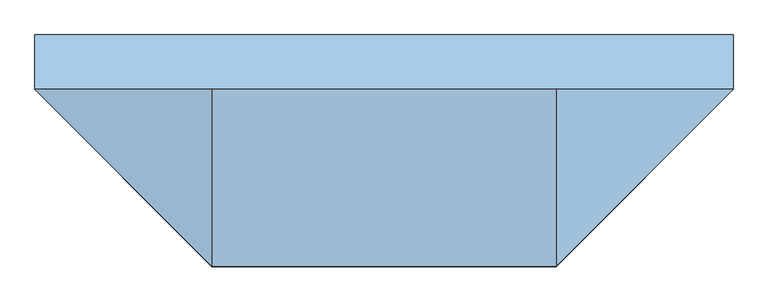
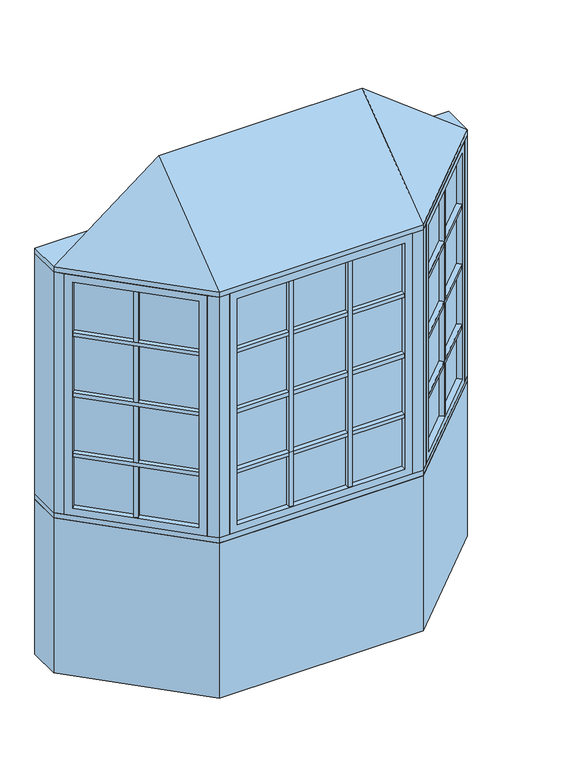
"""IFC4 building model written with IfcOpenShell, lengths in millimetres: window geometry, Pollard_Windows_Tudor Casement Bows and Bays : AML-BAY 45 AFR0612-08-600_GC."""

from ifc_helpers import new_model, si_unit, frame, origin, origin_with_axes, place, context, project, spatial, polyline, outline, extrude, faceted_brep, source, transform, mapped, element, save


def window_85a7261f(model_context):
    return source(origin(), model_context, "Body", "SolidModel", [
        extrude(outline(polyline([(539.5114193, -506.9608753), (523.9550701, -491.4045261), (901.616171, -113.7434252), (917.1725202, -129.2997743), (539.5114193, -506.9608753)])), frame((0.0, 0.0, 1390.998), z_axis=(0.0, 0.0, 1.0), x_axis=(1.0, 0.0, 0.0)), (0.0, 0.0, 1.0), 18.0),
        extrude(outline(polyline([(520.3629677, -487.8124236), (504.8066185, -472.2560744), (882.4677194, -94.5949735), (898.0240686, -110.1513227), (520.3629677, -487.8124236)])), frame((0.0, 0.0, 1390.998), z_axis=(0.0, 0.0, 1.0), x_axis=(1.0, 0.0, 0.0)), (0.0, 0.0, 1.0), 18.0),
        extrude(outline(polyline([(539.5114193, -506.9608753), (523.9550701, -491.4045261), (901.616171, -113.7434252), (917.1725202, -129.2997743), (539.5114193, -506.9608753)])), frame((0.0, 0.0, 1090.998), z_axis=(0.0, 0.0, 1.0), x_axis=(1.0, 0.0, 0.0)), (0.0, 0.0, 1.0), 18.0),
        extrude(outline(polyline([(520.3629677, -487.8124236), (504.8066185, -472.2560744), (882.4677194, -94.5949735), (898.0240686, -110.1513227), (520.3629677, -487.8124236)])), frame((0.0, 0.0, 1090.998), z_axis=(0.0, 0.0, 1.0), x_axis=(1.0, 0.0, 0.0)), (0.0, 0.0, 1.0), 18.0),
        extrude(outline(polyline([(539.5114193, -506.9608753), (523.9550701, -491.4045261), (901.616171, -113.7434252), (917.1725202, -129.2997743), (539.5114193, -506.9608753)])), frame((0.0, 0.0, 1390.998), z_axis=(0.0, 0.0, 1.0), x_axis=(1.0, 0.0, 0.0)), (0.0, 0.0, 1.0), 18.0),
        extrude(outline(polyline([(520.3629677, -487.8124236), (504.8066185, -472.2560744), (882.4677194, -94.5949735), (898.0240686, -110.1513227), (520.3629677, -487.8124236)])), frame((0.0, 0.0, 1390.998), z_axis=(0.0, 0.0, 1.0), x_axis=(1.0, 0.0, 0.0)), (0.0, 0.0, 1.0), 18.0),
        extrude(outline(polyline([(539.5114193, -506.9608753), (523.9550701, -491.4045261), (901.616171, -113.7434252), (917.1725202, -129.2997743), (539.5114193, -506.9608753)])), frame((0.0, 0.0, 1390.998), z_axis=(0.0, 0.0, 1.0), x_axis=(1.0, 0.0, 0.0)), (0.0, 0.0, 1.0), 18.0),
        extrude(outline(polyline([(520.3629677, -487.8124236), (504.8066185, -472.2560744), (882.4677194, -94.5949735), (898.0240686, -110.1513227), (520.3629677, -487.8124236)])), frame((0.0, 0.0, 1390.998), z_axis=(0.0, 0.0, 1.0), x_axis=(1.0, 0.0, 0.0)), (0.0, 0.0, 1.0), 18.0),
        extrude(outline(polyline([(539.5114193, -506.9608753), (523.9550701, -491.4045261), (901.616171, -113.7434252), (917.1725202, -129.2997743), (539.5114193, -506.9608753)])), frame((0.0, 0.0, 1690.998), z_axis=(0.0, 0.0, 1.0), x_axis=(1.0, 0.0, 0.0)), (0.0, 0.0, 1.0), 18.0),
        extrude(outline(polyline([(520.3629677, -487.8124236), (504.8066185, -472.2560744), (882.4677194, -94.5949735), (898.0240686, -110.1513227), (520.3629677, -487.8124236)])), frame((0.0, 0.0, 1690.998), z_axis=(0.0, 0.0, 1.0), x_axis=(1.0, 0.0, 0.0)), (0.0, 0.0, 1.0), 18.0),
        extrude(outline(polyline([(719.1495816, -296.2100146), (734.7059308, -311.7663638), (721.9780087, -324.4942858), (706.4216595, -308.9379366), (719.1495816, -296.2100146)])), frame((0.0, 0.0, 835.8628), z_axis=(0.0, 0.0, 1.0), x_axis=(1.0, 0.0, 0.0)), (0.0, 0.0, 1.0), 1128.2704),
        extrude(outline(polyline([(715.5574791, -292.6179121), (702.8295571, -305.3458342), (687.2732079, -289.789485), (700.00113, -277.0615629), (715.5574791, -292.6179121)])), frame((0.0, 0.0, 835.8628), z_axis=(0.0, 0.0, 1.0), x_axis=(1.0, 0.0, 0.0)), (0.0, 0.0, 1.0), 1128.2704),
        extrude(outline(polyline([(910.5964271, -104.763169), (514.974814, -500.3847822), (511.3827115, -496.7926797), (907.0043247, -101.1710666), (910.5964271, -104.763169)])), frame((0.0, 0.0, 823.1628), z_axis=(0.0, 0.0, 1.0), x_axis=(1.0, 0.0, 0.0)), (0.0, 0.0, 1.0), 1153.6704),
        faceted_brep([(901.616171, -113.7434252, 835.8628), (919.5766833, -131.7039374, 835.8628), (919.5766833, -131.7039374, 1964.1332), (901.616171, -113.7434252, 1964.1332), (907.0043247, -101.1710666, 823.1628), (910.5964271, -104.763169, 823.1628), (910.5964271, -104.763169, 1976.8332), (907.0043247, -101.1710666, 1976.8332), (880.0635563, -92.1908105, 835.8628), (898.0240686, -110.1513227, 835.8628), (898.0240686, -110.1513227, 1964.1332), (880.0635563, -92.1908105, 1964.1332), (944.9369265, -106.3436941, 799.998), (905.4237996, -66.8305672, 799.998), (905.4237996, -66.8305672, 1999.998), (944.9369265, -106.3436941, 1999.998), (541.9155823, -509.3650383, 1964.1332), (523.9550701, -491.4045261, 1964.1332), (514.974814, -500.3847822, 1976.8332), (511.3827115, -496.7926797, 1976.8332), (520.3629677, -487.8124236, 1964.1332), (502.4024554, -469.8519114, 1964.1332), (477.0422121, -495.2121547, 1999.998), (516.5553391, -534.7252816, 1999.998), (541.9155823, -509.3650383, 835.8628), (523.9550701, -491.4045261, 835.8628), (514.974814, -500.3847822, 823.1628), (511.3827115, -496.7926797, 823.1628), (520.3629677, -487.8124236, 835.8628), (502.4024554, -469.8519114, 835.8628), (477.0422121, -495.2121547, 799.998), (516.5553391, -534.7252816, 799.998)], [[[0, 1, 2, 3]], [[4, 5, 6, 7]], [[8, 9, 10, 11]], [[12, 13, 14, 15]], [[3, 2, 16, 17]], [[7, 6, 18, 19]], [[11, 10, 20, 21]], [[15, 14, 22, 23]], [[17, 16, 24, 25]], [[19, 18, 26, 27]], [[21, 20, 28, 29]], [[23, 22, 30, 31]], [[25, 24, 1, 0]], [[5, 26, 18, 6], [3, 17, 25, 0]], [[27, 26, 5, 4]], [[7, 19, 27, 4], [9, 28, 20, 10]], [[29, 28, 9, 8]], [[13, 30, 22, 14], [11, 21, 29, 8]], [[31, 30, 13, 12]], [[15, 23, 31, 12], [1, 24, 16, 2]]]),
        extrude(outline(polyline([(148.0118667, -544.6806207), (148.0118667, -566.6806207), (130.0118667, -566.6806207), (130.0118667, -544.6806207), (148.0118667, -544.6806207)])), frame((0.0, 0.0, 835.8628), z_axis=(0.0, 0.0, 1.0), x_axis=(1.0, 0.0, 0.0)), (0.0, 0.0, 1.0), 1128.2704),
        extrude(outline(polyline([(148.0118667, -539.6006207), (130.0118667, -539.6006207), (130.0118667, -517.6006207), (148.0118667, -517.6006207), (148.0118667, -539.6006207)])), frame((0.0, 0.0, 835.8628), z_axis=(0.0, 0.0, 1.0), x_axis=(1.0, 0.0, 0.0)), (0.0, 0.0, 1.0), 1128.2704),
        extrude(outline(polyline([(-130.0118667, -544.6806207), (-130.0118667, -566.6806207), (-148.0118667, -566.6806207), (-148.0118667, -544.6806207), (-130.0118667, -544.6806207)])), frame((0.0, 0.0, 835.8628), z_axis=(0.0, 0.0, 1.0), x_axis=(1.0, 0.0, 0.0)), (0.0, 0.0, 1.0), 1128.2704),
        extrude(outline(polyline([(-130.0118667, -539.6006207), (-148.0118667, -539.6006207), (-148.0118667, -517.6006207), (-130.0118667, -517.6006207), (-130.0118667, -539.6006207)])), frame((0.0, 0.0, 835.8628), z_axis=(0.0, 0.0, 1.0), x_axis=(1.0, 0.0, 0.0)), (0.0, 0.0, 1.0), 1128.2704),
        extrude(outline(polyline([(-395.3352, -566.6806207), (-395.3352, -544.6806207), (395.3352, -544.6806207), (395.3352, -566.6806207), (-395.3352, -566.6806207)])), frame((0.0, 0.0, 1090.998), z_axis=(0.0, 0.0, 1.0), x_axis=(1.0, 0.0, 0.0)), (0.0, 0.0, 1.0), 18.0),
        extrude(outline(polyline([(-395.3352, -539.6006207), (-395.3352, -517.6006207), (395.3352, -517.6006207), (395.3352, -539.6006207), (-395.3352, -539.6006207)])), frame((0.0, 0.0, 1090.998), z_axis=(0.0, 0.0, 1.0), x_axis=(1.0, 0.0, 0.0)), (0.0, 0.0, 1.0), 18.0),
        extrude(outline(polyline([(-395.3352, -566.6806207), (-395.3352, -544.6806207), (395.3352, -544.6806207), (395.3352, -566.6806207), (-395.3352, -566.6806207)])), frame((0.0, 0.0, 1390.998), z_axis=(0.0, 0.0, 1.0), x_axis=(1.0, 0.0, 0.0)), (0.0, 0.0, 1.0), 18.0),
        extrude(outline(polyline([(-395.3352, -539.6006207), (-395.3352, -517.6006207), (395.3352, -517.6006207), (395.3352, -539.6006207), (-395.3352, -539.6006207)])), frame((0.0, 0.0, 1390.998), z_axis=(0.0, 0.0, 1.0), x_axis=(1.0, 0.0, 0.0)), (0.0, 0.0, 1.0), 18.0),
        extrude(outline(polyline([(-395.3352, -566.6806207), (-395.3352, -544.6806207), (395.3352, -544.6806207), (395.3352, -566.6806207), (-395.3352, -566.6806207)])), frame((0.0, 0.0, 1390.998), z_axis=(0.0, 0.0, 1.0), x_axis=(1.0, 0.0, 0.0)), (0.0, 0.0, 1.0), 18.0),
        extrude(outline(polyline([(-395.3352, -539.6006207), (-395.3352, -517.6006207), (395.3352, -517.6006207), (395.3352, -539.6006207), (-395.3352, -539.6006207)])), frame((0.0, 0.0, 1390.998), z_axis=(0.0, 0.0, 1.0), x_axis=(1.0, 0.0, 0.0)), (0.0, 0.0, 1.0), 18.0),
        extrude(outline(polyline([(-395.3352, -566.6806207), (-395.3352, -544.6806207), (395.3352, -544.6806207), (395.3352, -566.6806207), (-395.3352, -566.6806207)])), frame((0.0, 0.0, 1390.998), z_axis=(0.0, 0.0, 1.0), x_axis=(1.0, 0.0, 0.0)), (0.0, 0.0, 1.0), 18.0),
        extrude(outline(polyline([(-395.3352, -539.6006207), (-395.3352, -517.6006207), (395.3352, -517.6006207), (395.3352, -539.6006207), (-395.3352, -539.6006207)])), frame((0.0, 0.0, 1390.998), z_axis=(0.0, 0.0, 1.0), x_axis=(1.0, 0.0, 0.0)), (0.0, 0.0, 1.0), 18.0),
        extrude(outline(polyline([(-917.1725202, -129.2997743), (-901.616171, -113.7434252), (-523.9550701, -491.4045261), (-539.5114193, -506.9608753), (-917.1725202, -129.2997743)])), frame((0.0, 0.0, 1090.998), z_axis=(0.0, 0.0, 1.0), x_axis=(1.0, 0.0, 0.0)), (0.0, 0.0, 1.0), 18.0),
        extrude(outline(polyline([(-898.0240686, -110.1513227), (-882.4677194, -94.5949735), (-504.8066185, -472.2560744), (-520.3629677, -487.8124236), (-898.0240686, -110.1513227)])), frame((0.0, 0.0, 1090.998), z_axis=(0.0, 0.0, 1.0), x_axis=(1.0, 0.0, 0.0)), (0.0, 0.0, 1.0), 18.0),
        extrude(outline(polyline([(-917.1725202, -129.2997743), (-901.616171, -113.7434252), (-523.9550701, -491.4045261), (-539.5114193, -506.9608753), (-917.1725202, -129.2997743)])), frame((0.0, 0.0, 1390.998), z_axis=(0.0, 0.0, 1.0), x_axis=(1.0, 0.0, 0.0)), (0.0, 0.0, 1.0), 18.0),
        extrude(outline(polyline([(-898.0240686, -110.1513227), (-882.4677194, -94.5949735), (-504.8066185, -472.2560744), (-520.3629677, -487.8124236), (-898.0240686, -110.1513227)])), frame((0.0, 0.0, 1390.998), z_axis=(0.0, 0.0, 1.0), x_axis=(1.0, 0.0, 0.0)), (0.0, 0.0, 1.0), 18.0),
        extrude(outline(polyline([(-917.1725202, -129.2997743), (-901.616171, -113.7434252), (-523.9550701, -491.4045261), (-539.5114193, -506.9608753), (-917.1725202, -129.2997743)])), frame((0.0, 0.0, 1390.998), z_axis=(0.0, 0.0, 1.0), x_axis=(1.0, 0.0, 0.0)), (0.0, 0.0, 1.0), 18.0),
        extrude(outline(polyline([(-898.0240686, -110.1513227), (-882.4677194, -94.5949735), (-504.8066185, -472.2560744), (-520.3629677, -487.8124236), (-898.0240686, -110.1513227)])), frame((0.0, 0.0, 1390.998), z_axis=(0.0, 0.0, 1.0), x_axis=(1.0, 0.0, 0.0)), (0.0, 0.0, 1.0), 18.0),
        extrude(outline(polyline([(-917.1725202, -129.2997743), (-901.616171, -113.7434252), (-523.9550701, -491.4045261), (-539.5114193, -506.9608753), (-917.1725202, -129.2997743)])), frame((0.0, 0.0, 1390.998), z_axis=(0.0, 0.0, 1.0), x_axis=(1.0, 0.0, 0.0)), (0.0, 0.0, 1.0), 18.0),
        extrude(outline(polyline([(-898.0240686, -110.1513227), (-882.4677194, -94.5949735), (-504.8066185, -472.2560744), (-520.3629677, -487.8124236), (-898.0240686, -110.1513227)])), frame((0.0, 0.0, 1390.998), z_axis=(0.0, 0.0, 1.0), x_axis=(1.0, 0.0, 0.0)), (0.0, 0.0, 1.0), 18.0),
        extrude(outline(polyline([(-917.1725202, -129.2997743), (-901.616171, -113.7434252), (-523.9550701, -491.4045261), (-539.5114193, -506.9608753), (-917.1725202, -129.2997743)])), frame((0.0, 0.0, 1690.998), z_axis=(0.0, 0.0, 1.0), x_axis=(1.0, 0.0, 0.0)), (0.0, 0.0, 1.0), 18.0),
        extrude(outline(polyline([(-898.0240686, -110.1513227), (-882.4677194, -94.5949735), (-504.8066185, -472.2560744), (-520.3629677, -487.8124236), (-898.0240686, -110.1513227)])), frame((0.0, 0.0, 1690.998), z_axis=(0.0, 0.0, 1.0), x_axis=(1.0, 0.0, 0.0)), (0.0, 0.0, 1.0), 18.0),
        extrude(outline(polyline([(-395.3352, -566.6806207), (-395.3352, -544.6806207), (395.3352, -544.6806207), (395.3352, -566.6806207), (-395.3352, -566.6806207)])), frame((0.0, 0.0, 1690.998), z_axis=(0.0, 0.0, 1.0), x_axis=(1.0, 0.0, 0.0)), (0.0, 0.0, 1.0), 18.0),
        extrude(outline(polyline([(-395.3352, -539.6006207), (-395.3352, -517.6006207), (395.3352, -517.6006207), (395.3352, -539.6006207), (-395.3352, -539.6006207)])), frame((0.0, 0.0, 1690.998), z_axis=(0.0, 0.0, 1.0), x_axis=(1.0, 0.0, 0.0)), (0.0, 0.0, 1.0), 18.0),
        extrude(outline(polyline([(-706.4216595, -308.9379366), (-721.9780087, -324.4942858), (-734.7059308, -311.7663638), (-719.1495816, -296.2100146), (-706.4216595, -308.9379366)])), frame((0.0, 0.0, 835.8628), z_axis=(0.0, 0.0, 1.0), x_axis=(1.0, 0.0, 0.0)), (0.0, 0.0, 1.0), 1128.2704),
        extrude(outline(polyline([(-702.8295571, -305.3458342), (-715.5574791, -292.6179121), (-700.00113, -277.0615629), (-687.2732079, -289.789485), (-702.8295571, -305.3458342)])), frame((0.0, 0.0, 835.8628), z_axis=(0.0, 0.0, 1.0), x_axis=(1.0, 0.0, 0.0)), (0.0, 0.0, 1.0), 1128.2704),
        extrude(outline(polyline([(-514.974814, -500.3847822), (-910.5964271, -104.763169), (-907.0043247, -101.1710666), (-511.3827115, -496.7926797), (-514.974814, -500.3847822)])), frame((0.0, 0.0, 823.1628), z_axis=(0.0, 0.0, 1.0), x_axis=(1.0, 0.0, 0.0)), (0.0, 0.0, 1.0), 1153.6704),
        faceted_brep([(-520.3629677, -487.8124236, 1964.1332), (-502.4024554, -469.8519114, 1964.1332), (-502.4024554, -469.8519114, 835.8628), (-520.3629677, -487.8124236, 835.8628), (-514.974814, -500.3847822, 1976.8332), (-511.3827115, -496.7926797, 1976.8332), (-511.3827115, -496.7926797, 823.1628), (-514.974814, -500.3847822, 823.1628), (-541.9155823, -509.3650383, 1964.1332), (-523.9550701, -491.4045261, 1964.1332), (-523.9550701, -491.4045261, 835.8628), (-541.9155823, -509.3650383, 835.8628), (-477.0422121, -495.2121547, 1999.998), (-516.5553391, -534.7252816, 1999.998), (-516.5553391, -534.7252816, 799.998), (-477.0422121, -495.2121547, 799.998), (-880.0635563, -92.1908105, 835.8628), (-898.0240686, -110.1513227, 835.8628), (-907.0043247, -101.1710666, 823.1628), (-910.5964271, -104.763169, 823.1628), (-901.616171, -113.7434252, 835.8628), (-919.5766833, -131.7039374, 835.8628), (-944.9369265, -106.3436941, 799.998), (-905.4237996, -66.8305672, 799.998), (-880.0635563, -92.1908105, 1964.1332), (-898.0240686, -110.1513227, 1964.1332), (-907.0043247, -101.1710666, 1976.8332), (-910.5964271, -104.763169, 1976.8332), (-901.616171, -113.7434252, 1964.1332), (-919.5766833, -131.7039374, 1964.1332), (-944.9369265, -106.3436941, 1999.998), (-905.4237996, -66.8305672, 1999.998)], [[[0, 1, 2, 3]], [[4, 5, 6, 7]], [[8, 9, 10, 11]], [[12, 13, 14, 15]], [[3, 2, 16, 17]], [[7, 6, 18, 19]], [[11, 10, 20, 21]], [[15, 14, 22, 23]], [[17, 16, 24, 25]], [[19, 18, 26, 27]], [[21, 20, 28, 29]], [[23, 22, 30, 31]], [[15, 23, 31, 12], [1, 24, 16, 2]], [[25, 24, 1, 0]], [[5, 26, 18, 6], [3, 17, 25, 0]], [[27, 26, 5, 4]], [[7, 19, 27, 4], [9, 28, 20, 10]], [[29, 28, 9, 8]], [[13, 30, 22, 14], [11, 21, 29, 8]], [[31, 30, 13, 12]]]),
        extrude(outline(polyline([(408.0352, -544.6806207), (-408.0352, -544.6806207), (-408.0352, -539.6006207), (408.0352, -539.6006207), (408.0352, -544.6806207)])), frame((0.0, 0.0, 823.1628), z_axis=(0.0, 0.0, 1.0), x_axis=(1.0, 0.0, 0.0)), (0.0, 0.0, 1.0), 1153.6704),
        faceted_brep([(395.3352, -544.6806207, 835.8628), (395.3352, -570.0806207, 835.8628), (395.3352, -570.0806207, 1964.1332), (395.3352, -544.6806207, 1964.1332), (408.0352, -539.6006207, 823.1628), (408.0352, -544.6806207, 823.1628), (408.0352, -544.6806207, 1976.8332), (408.0352, -539.6006207, 1976.8332), (395.3352, -514.2006207, 835.8628), (395.3352, -539.6006207, 835.8628), (395.3352, -539.6006207, 1964.1332), (395.3352, -514.2006207, 1964.1332), (431.2, -570.0806207, 799.998), (431.2, -514.2006207, 799.998), (431.2, -514.2006207, 1999.998), (431.2, -570.0806207, 1999.998), (-395.3352, -570.0806207, 1964.1332), (-395.3352, -544.6806207, 1964.1332), (-408.0352, -544.6806207, 1976.8332), (-408.0352, -539.6006207, 1976.8332), (-395.3352, -539.6006207, 1964.1332), (-395.3352, -514.2006207, 1964.1332), (-431.2, -514.2006207, 1999.998), (-431.2, -570.0806207, 1999.998), (-395.3352, -570.0806207, 835.8628), (-395.3352, -544.6806207, 835.8628), (-408.0352, -544.6806207, 823.1628), (-408.0352, -539.6006207, 823.1628), (-395.3352, -539.6006207, 835.8628), (-395.3352, -514.2006207, 835.8628), (-431.2, -514.2006207, 799.998), (-431.2, -570.0806207, 799.998)], [[[0, 1, 2, 3]], [[4, 5, 6, 7]], [[8, 9, 10, 11]], [[12, 13, 14, 15]], [[3, 2, 16, 17]], [[7, 6, 18, 19]], [[11, 10, 20, 21]], [[15, 14, 22, 23]], [[17, 16, 24, 25]], [[19, 18, 26, 27]], [[21, 20, 28, 29]], [[23, 22, 30, 31]], [[15, 23, 31, 12], [1, 24, 16, 2]], [[25, 24, 1, 0]], [[5, 26, 18, 6], [3, 17, 25, 0]], [[27, 26, 5, 4]], [[7, 19, 27, 4], [9, 28, 20, 10]], [[29, 28, 9, 8]], [[13, 30, 22, 14], [11, 21, 29, 8]], [[31, 30, 13, 12]]]),
        faceted_brep([(976.5, -74.7806207, 2025.398), (481.2, -570.0806207, 2025.398), (-481.2, -570.0806207, 2025.398), (-976.5, -74.7806207, 2025.398), (-481.2, -74.7806207, 2406.398), (481.2, -74.7806207, 2406.398)], [[[0, 1, 2, 3]], [[3, 2, 4]], [[2, 1, 5, 4]], [[1, 0, 5]], [[0, 3, 4, 5]]]),
        extrude(outline(polyline([(-976.5, 77.6193793), (976.5, 77.6193793), (976.5, -74.7806207), (481.2, -570.0806207), (-481.2, -570.0806207), (-976.5, -74.7806207), (-976.5, 77.6193793)])), frame((0.0, 0.0, 1999.998), z_axis=(0.0, 0.0, 1.0), x_axis=(1.0, 0.0, 0.0)), (0.0, 0.0, 1.0), 25.4),
        extrude(outline(polyline([(-976.5, -74.7806207), (-976.5, 77.6193793), (-913.3738531, 77.6193793), (-913.3738531, -74.7806207), (-944.9369265, -106.3436941), (-976.5, -74.7806207)])), frame((0.0, 0.0, 799.998), z_axis=(0.0, 0.0, 1.0), x_axis=(1.0, 0.0, 0.0)), (0.0, 0.0, 1.0), 1200.0),
        extrude(outline(polyline([(976.5, 77.6193793), (976.5, -74.7806207), (944.9369265, -106.3436941), (913.3738531, -74.7806207), (913.3738531, 77.6193793), (976.5, 77.6193793)])), frame((0.0, 0.0, 799.998), z_axis=(0.0, 0.0, 1.0), x_axis=(1.0, 0.0, 0.0)), (0.0, 0.0, 1.0), 1200.0),
        extrude(outline(polyline([(481.2, -570.0806207), (431.2, -570.0806207), (431.2, -520.0806207), (460.4893219, -520.0806207), (481.2, -499.3699425), (516.5553391, -534.7252816), (481.2, -570.0806207)])), frame((0.0, 0.0, 799.998), z_axis=(0.0, 0.0, 1.0), x_axis=(1.0, 0.0, 0.0)), (0.0, 0.0, 1.0), 1200.0),
        extrude(outline(polyline([(-481.2, -570.0806207), (-516.5553391, -534.7252816), (-481.2, -499.3699425), (-460.4893219, -520.0806207), (-431.2, -520.0806207), (-431.2, -570.0806207), (-481.2, -570.0806207)])), frame((0.0, 0.0, 799.998), z_axis=(0.0, 0.0, 1.0), x_axis=(1.0, 0.0, 0.0)), (0.0, 0.0, 1.0), 1200.0),
        extrude(outline(polyline([(-481.2, -570.0806207), (-976.5, -74.7806207), (-976.5, 77.6193793), (-913.3738531, 77.6193793), (-418.0738531, -417.6806207), (418.0738531, -417.6806207), (913.3738531, 77.6193793), (976.5, 77.6193793), (976.5, -74.7806207), (481.2, -570.0806207), (-481.2, -570.0806207)])), frame((0.0, 0.0, 774.598), z_axis=(0.0, 0.0, 1.0), x_axis=(1.0, 0.0, 0.0)), (0.0, 0.0, 1.0), 25.4),
        extrude(outline(polyline([(-976.5, -74.7806207), (-976.5, 77.6193793), (-913.3738531, 77.6193793), (-418.0738531, -417.6806207), (418.0738531, -417.6806207), (913.3738531, 77.6193793), (976.5, 77.6193793), (976.5, -74.7806207), (481.2, -570.0806207), (-481.2, -570.0806207), (-976.5, -74.7806207)])), origin_with_axes(), (0.0, 0.0, 1.0), 774.598),
    ])


if __name__ == "__main__":
    model = new_model("IFC4")
    model_context = context("Model", 3, world=origin())
    ifc_project = project(units=[si_unit("LENGTHUNIT", "METRE", prefix="MILLI")], contexts=[model_context])
    site = spatial("IfcSite", under=ifc_project)
    building = spatial("IfcBuilding", under=site)
    placement = place(None, origin())
    window_shape = window_85a7261f(model_context)
    element("IfcWindow", 1, ObjectType="Pollard_Windows_Tudor Casement Bows and Bays : AML-BAY 45 AFR0612-08-600_GC", at=placement, inside=building, context=model_context, shape_type="MappedRepresentation", body=[
        mapped(window_shape, transform((0.0, 0.0, 0.0), x_axis=(1.0, 0.0, 0.0), y_axis=(0.0, 1.0, 0.0), z_axis=(0.0, 0.0, 1.0))),
    ])
    save(model, "model.ifc")
